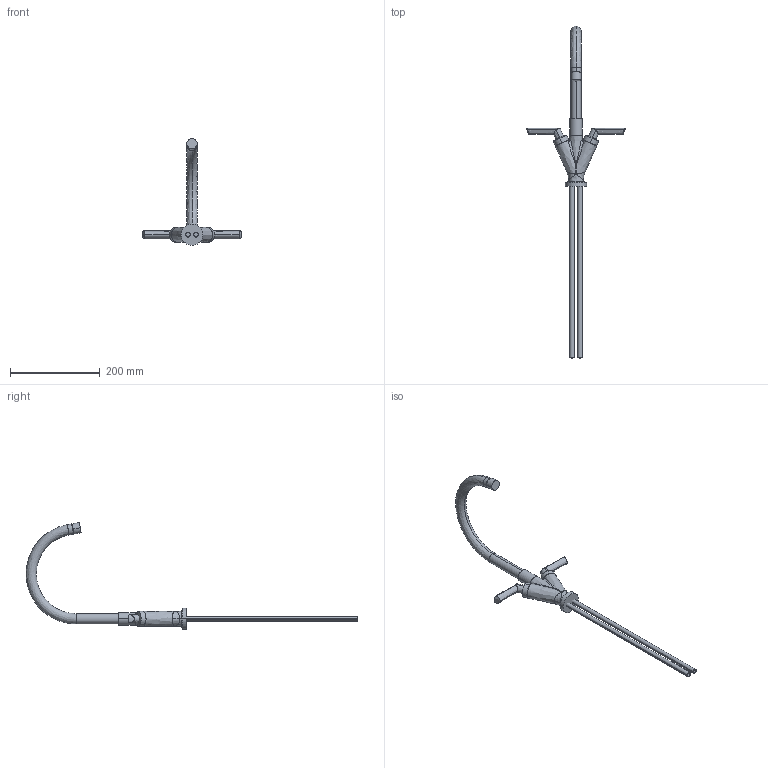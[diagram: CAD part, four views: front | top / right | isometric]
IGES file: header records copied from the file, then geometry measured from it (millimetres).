
Start section:  PTC IGES file: 16000_web.igs
Global section: file name: 16000_web.igs; native system: Creo Parametric by PTC Inc.; preprocessor: 2018190; author: jaje1; organization: Unknown; date: 20181120.125429; units: millimetre
Bounding box: 222.89 x 740.2 x 238.33 mm (x, y, z)
Surface area: 121563.3 mm2 (no closed solid volume)
Topology: 0 solids, 0 shells, 85 faces, 470 edges, 526 vertices
Faces by surface type: revolution 52, bspline 29, extrusion 4
